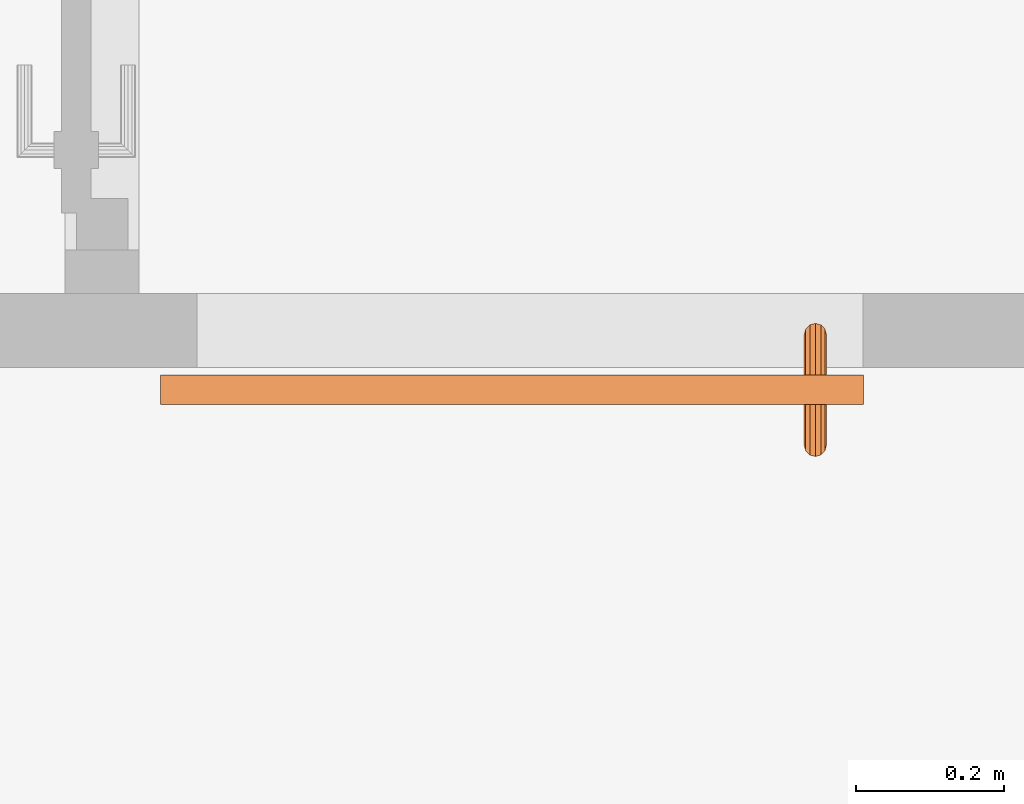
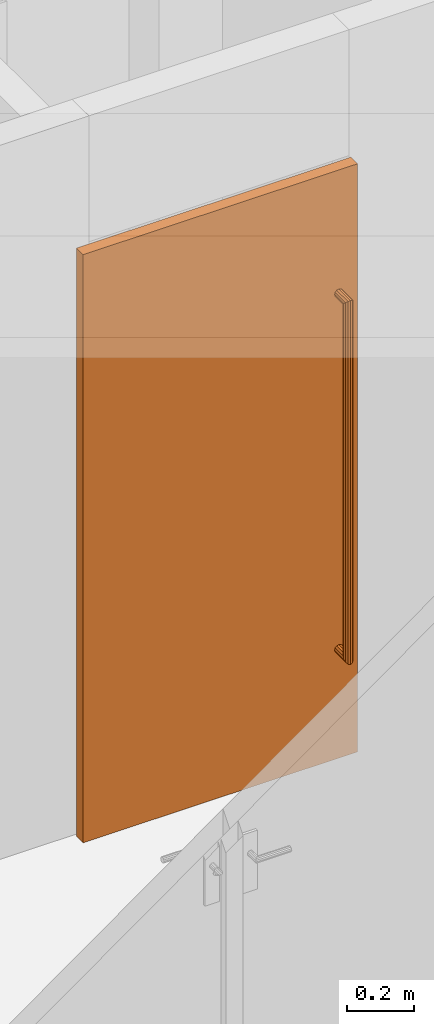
"""IFC4 building model written with IfcOpenShell, lengths in metres."""

from ifc_helpers import new_model, entity, si_unit, converted_unit, derived_unit, frame, origin, origin_with_axes, place, context, subcontext, project, spatial, faceted_brep, source, transform, mapped, element, save


model = new_model("IFC4")

# Units and contexts
model_context = context("Model", 3, precision=1e-05, world=origin())
body_context = subcontext(model_context, "Body", "Model", "MODEL_VIEW")
ifc_project = project(units=[si_unit("LENGTHUNIT", "METRE"), si_unit("AREAUNIT", "SQUARE_METRE"), si_unit("VOLUMEUNIT", "CUBIC_METRE"), si_unit("MASSUNIT", "GRAM", prefix="KILO"), converted_unit("PLANEANGLEUNIT", "DEGREE", entity("IfcPlaneAngleMeasure", 0.0174532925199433), si_unit("PLANEANGLEUNIT", "RADIAN"), dimensions=[0, 0, 0, 0, 0, 0, 0]), derived_unit("THERMALTRANSMITTANCEUNIT", [(si_unit("POWERUNIT", "WATT"), 1), (si_unit("THERMODYNAMICTEMPERATUREUNIT", "KELVIN"), -1), (si_unit("LENGTHUNIT", "METRE"), -2)]), derived_unit("VOLUMETRICFLOWRATEUNIT", [(si_unit("LENGTHUNIT", "METRE"), 3), (converted_unit("TIMEUNIT", "hour", entity("IfcTimeMeasure", 3600.0), si_unit("TIMEUNIT", "SECOND"), dimensions=[0, 0, 1, 0, 0, 0, 0]), -1), (si_unit("LENGTHUNIT", "METRE"), -1)])], contexts=[model_context])

# Building, storeys
building_placement = place(None, origin())
building = spatial("IfcBuilding", under=ifc_project, at=building_placement, Name="HABITATGE PLURIFAMILIAR", CompositionType="ELEMENT")
storey_1_placement = place(building_placement, frame((0.0, 0.0, 18.29)))
storey_1 = spatial("IfcBuildingStorey", under=building, at=storey_1_placement, Name="PLANTA CINQUENA", CompositionType="ELEMENT", Elevation=18.29)
storey_2_placement = place(storey_1_placement, frame((0.0, 0.0, 15.28)))
storey_2 = spatial("IfcBuildingStorey", under=storey_1, at=storey_2_placement, Name="NOU", CompositionType="PARTIAL")

# Proxy
shared_shape = source(origin_with_axes(), body_context, "Body", "Brep", [
    faceted_brep([(0.0, 0.11, 2.15), (0.0, 0.11, 0.0), (0.95, 0.11, 0.0), (0.95, 0.11, 2.15), (0.0, 0.0699999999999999, 0.0), (0.0, 0.0700000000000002, 2.15), (0.95, 0.0700000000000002, 2.15), (0.95, 0.0699999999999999, 0.0)], [[[0, 1, 2, 3]], [[4, 5, 6, 7]], [[1, 0, 5, 4]], [[2, 1, 4, 7]], [[3, 2, 7, 6]], [[0, 3, 6, 5]]], orient=[[False], [False], [False], [False], [False], [False]]),
    faceted_brep([(0.08, 0.0700000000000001, 1.7), (0.0779903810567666, 0.0700000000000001, 1.7075), (0.0725, 0.0700000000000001, 1.71299038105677), (0.065, 0.0700000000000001, 1.715), (0.0575, 0.0700000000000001, 1.71299038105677), (0.0520096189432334, 0.0700000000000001, 1.7075), (0.05, 0.0700000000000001, 1.7), (0.0520096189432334, 0.0700000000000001, 1.6925), (0.0575, 0.0700000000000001, 1.68700961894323), (0.065, 0.0700000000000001, 1.685), (0.0725, 0.0700000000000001, 1.68700961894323), (0.0779903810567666, 0.0700000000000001, 1.6925), (0.08, 0.0150000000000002, 1.7), (0.0779903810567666, 0.00750000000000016, 1.7075), (0.0725, 0.00200961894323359, 1.71299038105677), (0.065, 0.0, 1.715), (0.0575, 0.00200961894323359, 1.71299038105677), (0.0520096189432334, 0.00750000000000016, 1.7075), (0.05, 0.0150000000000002, 1.7), (0.0520096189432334, 0.0225000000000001, 1.6925), (0.0575, 0.0279903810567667, 1.68700961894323), (0.065, 0.0300000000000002, 1.685), (0.0725, 0.0279903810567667, 1.68700961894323), (0.0779903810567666, 0.0225000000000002, 1.6925), (0.08, 0.015, 0.4), (0.0779903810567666, 0.00749999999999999, 0.3925), (0.0725, 0.00200961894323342, 0.387009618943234), (0.065, 0.0, 0.385), (0.0575, 0.00200961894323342, 0.387009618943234), (0.0520096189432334, 0.00749999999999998, 0.3925), (0.05, 0.015, 0.4), (0.0520096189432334, 0.0225, 0.4075), (0.0575, 0.0279903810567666, 0.412990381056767), (0.065, 0.03, 0.415), (0.0725, 0.0279903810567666, 0.412990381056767), (0.0779903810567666, 0.0225, 0.4075), (0.0800000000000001, 0.07, 0.4), (0.0779903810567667, 0.07, 0.4075), (0.0725000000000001, 0.07, 0.412990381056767), (0.0650000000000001, 0.07, 0.415), (0.0575000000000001, 0.07, 0.412990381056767), (0.0520096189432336, 0.07, 0.4075), (0.0500000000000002, 0.07, 0.4), (0.0520096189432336, 0.07, 0.3925), (0.0575000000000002, 0.07, 0.387009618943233), (0.0650000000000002, 0.07, 0.385), (0.0725000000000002, 0.07, 0.387009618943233), (0.0779903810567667, 0.07, 0.3925)], [[[0, 1, 2, 3, 4, 5, 6, 7, 8, 9, 10, 11]], [[0, 12, 13, 1]], [[1, 13, 14, 2]], [[2, 14, 15, 3]], [[3, 15, 16, 4]], [[4, 16, 17, 5]], [[5, 17, 18, 6]], [[6, 18, 19, 7]], [[7, 19, 20, 8]], [[8, 20, 21, 9]], [[9, 21, 22, 10]], [[10, 22, 23, 11]], [[11, 23, 12, 0]], [[12, 24, 25, 13]], [[13, 25, 26, 14]], [[14, 26, 27, 15]], [[15, 27, 28, 16]], [[16, 28, 29, 17]], [[17, 29, 30, 18]], [[18, 30, 31, 19]], [[19, 31, 32, 20]], [[20, 32, 33, 21]], [[21, 33, 34, 22]], [[22, 34, 35, 23]], [[23, 35, 24, 12]], [[36, 37, 38, 39, 40, 41, 42, 43, 44, 45, 46, 47]], [[24, 36, 47, 25]], [[25, 47, 46, 26]], [[26, 46, 45, 27]], [[27, 45, 44, 28]], [[28, 44, 43, 29]], [[29, 43, 42, 30]], [[30, 42, 41, 31]], [[31, 41, 40, 32]], [[32, 40, 39, 33]], [[33, 39, 38, 34]], [[34, 38, 37, 35]], [[35, 37, 36, 24]]], orient=[[False], [False], [False], [False], [False], [False], [False], [False], [False], [False], [False], [False], [False], [False], [False], [False], [False], [False], [False], [False], [False], [False], [False], [False], [False], [False], [False], [False], [False], [False], [False], [False], [False], [False], [False], [False], [False], [False]]),
    faceted_brep([(0.08, 0.11, 1.7), (0.0779903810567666, 0.11, 1.6925), (0.0725, 0.11, 1.68700961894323), (0.065, 0.11, 1.685), (0.0575, 0.11, 1.68700961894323), (0.0520096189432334, 0.11, 1.6925), (0.05, 0.11, 1.7), (0.0520096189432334, 0.11, 1.7075), (0.0575, 0.11, 1.71299038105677), (0.065, 0.11, 1.715), (0.0725, 0.11, 1.71299038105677), (0.0779903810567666, 0.11, 1.7075), (0.0779903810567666, 0.1725, 1.7075), (0.08, 0.165, 1.7), (0.0725, 0.177990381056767, 1.71299038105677), (0.065, 0.18, 1.715), (0.0575, 0.177990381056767, 1.71299038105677), (0.0520096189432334, 0.1725, 1.7075), (0.05, 0.165, 1.7), (0.0520096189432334, 0.1575, 1.6925), (0.0575, 0.152009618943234, 1.68700961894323), (0.065, 0.15, 1.685), (0.0725, 0.152009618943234, 1.68700961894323), (0.0779903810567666, 0.1575, 1.6925), (0.0779903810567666, 0.1725, 0.3925), (0.08, 0.165, 0.4), (0.0725, 0.177990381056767, 0.387009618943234), (0.065, 0.18, 0.385), (0.0575, 0.177990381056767, 0.387009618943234), (0.0520096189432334, 0.1725, 0.3925), (0.05, 0.165, 0.4), (0.0520096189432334, 0.1575, 0.4075), (0.0575, 0.152009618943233, 0.412990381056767), (0.065, 0.15, 0.415), (0.0725, 0.152009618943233, 0.412990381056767), (0.0779903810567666, 0.1575, 0.4075), (0.0800000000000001, 0.11, 0.4), (0.0779903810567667, 0.11, 0.3925), (0.0725000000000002, 0.11, 0.387009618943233), (0.0650000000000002, 0.11, 0.385), (0.0575000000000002, 0.11, 0.387009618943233), (0.0520096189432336, 0.11, 0.3925), (0.0500000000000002, 0.11, 0.4), (0.0520096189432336, 0.11, 0.4075), (0.0575000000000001, 0.11, 0.412990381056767), (0.0650000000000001, 0.11, 0.415), (0.0725000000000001, 0.11, 0.412990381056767), (0.0779903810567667, 0.11, 0.4075)], [[[0, 1, 2, 3, 4, 5, 6, 7, 8, 9, 10, 11]], [[0, 11, 12, 13]], [[11, 10, 14, 12]], [[10, 9, 15, 14]], [[9, 8, 16, 15]], [[8, 7, 17, 16]], [[7, 6, 18, 17]], [[6, 5, 19, 18]], [[5, 4, 20, 19]], [[4, 3, 21, 20]], [[3, 2, 22, 21]], [[2, 1, 23, 22]], [[1, 0, 13, 23]], [[13, 12, 24, 25]], [[12, 14, 26, 24]], [[14, 15, 27, 26]], [[15, 16, 28, 27]], [[16, 17, 29, 28]], [[17, 18, 30, 29]], [[18, 19, 31, 30]], [[19, 20, 32, 31]], [[20, 21, 33, 32]], [[21, 22, 34, 33]], [[22, 23, 35, 34]], [[23, 13, 25, 35]], [[36, 37, 38, 39, 40, 41, 42, 43, 44, 45, 46, 47]], [[25, 24, 37, 36]], [[24, 26, 38, 37]], [[26, 27, 39, 38]], [[27, 28, 40, 39]], [[28, 29, 41, 40]], [[29, 30, 42, 41]], [[30, 31, 43, 42]], [[31, 32, 44, 43]], [[32, 33, 45, 44]], [[33, 34, 46, 45]], [[34, 35, 47, 46]], [[35, 25, 36, 47]]], orient=[[False], [False], [False], [False], [False], [False], [False], [False], [False], [False], [False], [False], [False], [False], [False], [False], [False], [False], [False], [False], [False], [False], [False], [False], [False], [False], [False], [False], [False], [False], [False], [False], [False], [False], [False], [False], [False], [False]]),
])
proxy_placement = place(storey_2_placement, frame((409.965884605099, 25.8894598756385, -15.28), z_axis=(0.0, 0.0, 1.0), x_axis=(-1.0, 1.22464679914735e-16, 0.0)))
element("IfcBuildingElementProxy", 1, at=proxy_placement, inside=storey_2, Name="Porta P5", context=body_context, shape_type="MappedRepresentation", body=[
    mapped(shared_shape, transform((0.0, 0.0, 0.0), x_axis=(1.0, 0.0, 0.0), y_axis=(0.0, 1.0, 0.0), z_axis=(0.0, 0.0, 1.0), scale=1.0)),
])

save(model, "model.ifc")
